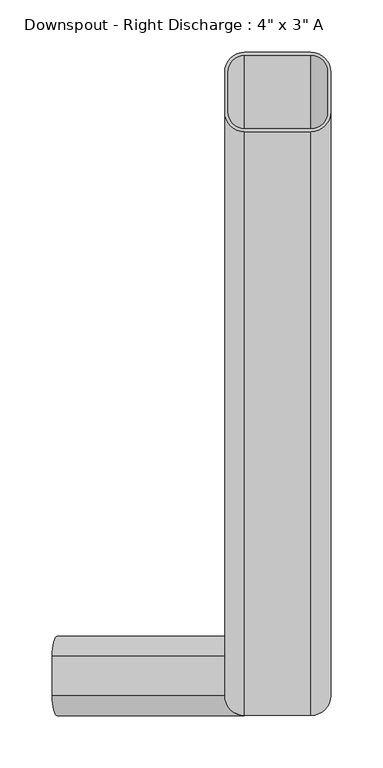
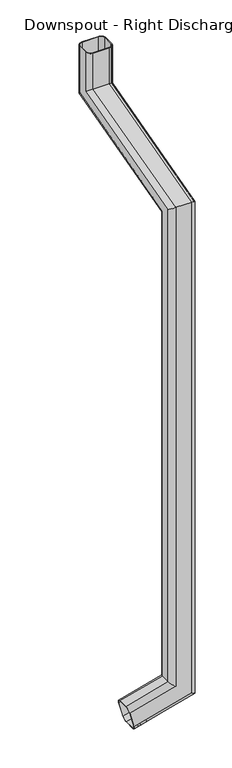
"""IFC4 building model written with IfcOpenShell, lengths in millimetres: proxy geometry."""

import ifcopenshell
import ifcopenshell.guid

model = None  # the IFC model being written
_history = None  # IfcOwnerHistory: only IFC2X3 demands one
_inside = {}  # id of a spatial element -> (the spatial element, [elements in it])
_under = {}  # id of a project, library or spatial element -> (it, [spatial elements below it])
_declared = {}  # id of a project -> (the project, [libraries it declares])
_typed = {}  # id of a type object -> (the type object, [elements of that type])
_made_of = {}  # id of a material, layer set ... -> (it, [elements and type objects made of it])


def new_model(schema):
    """Start an empty IFC model of exactly this schema.

    Asked for "IFC4X3", IfcOpenShell would pick the latest addendum, in which some entities
    have other attributes; the version numbers below select the first issue.
    IFC2X3 requires an IfcOwnerHistory on every rooted entity: one is made here for all.
    """
    global model, _history
    if schema == "IFC4X3":
        model = ifcopenshell.file(schema_version=(4, 3, 0, 0))
    else:
        model = ifcopenshell.file(schema=schema)
    _inside.clear()
    _under.clear()
    _declared.clear()
    _typed.clear()
    _made_of.clear()
    _history = None
    if model.schema == "IFC2X3":
        org = make("IfcOrganization", Name="unknown")
        user = make(
            "IfcPersonAndOrganization",
            ThePerson=make("IfcPerson", FamilyName="unknown"),
            TheOrganization=org,
        )
        app = make(
            "IfcApplication",
            ApplicationDeveloper=org,
            Version="unknown",
            ApplicationFullName="unknown",
            ApplicationIdentifier="unknown",
        )
        _history = make(
            "IfcOwnerHistory",
            OwningUser=user,
            OwningApplication=app,
            ChangeAction="ADDED",
            CreationDate=0,
        )
    return model


def make(cls, **values):
    """One entity of the class cls with the attributes given. An attribute that is None is left unset."""
    return model.create_entity(
        cls, **{name: value for name, value in values.items() if value is not None}
    )


def rooted(cls, **values):
    """An entity with a GlobalId (a new one), such as an element, a storey or a relation."""
    return make(cls, GlobalId=ifcopenshell.guid.new(), OwnerHistory=_history, **values)


def si_unit(unit_type, name, prefix=None):
    """IfcSIUnit, for example si_unit("LENGTHUNIT", "METRE", prefix="MILLI")."""
    return make("IfcSIUnit", UnitType=unit_type, Prefix=prefix, Name=name)


def assignment(units):
    """IfcUnitAssignment: the units of a project."""
    return None if units is None else make("IfcUnitAssignment", Units=units)


def point(xyz):
    """IfcCartesianPoint."""
    return None if xyz is None else make("IfcCartesianPoint", Coordinates=xyz)


def direction(xyz):
    """IfcDirection."""
    return None if xyz is None else make("IfcDirection", DirectionRatios=xyz)


def frame(location, z_axis=None, x_axis=None):
    """IfcAxis2Placement3D, a coordinate frame: its origin and axes. An axis left out is left unset."""
    return make(
        "IfcAxis2Placement3D",
        Location=point(location),
        Axis=direction(z_axis),
        RefDirection=direction(x_axis),
    )


def origin():
    """The frame at (0, 0, 0) with its axes left unset."""
    return frame((0.0, 0.0, 0.0))


def place(relative_to, where):
    """IfcLocalPlacement: puts the frame where relative to a parent placement (None: the world)."""
    return make(
        "IfcLocalPlacement", PlacementRelTo=relative_to, RelativePlacement=where
    )


def context(
    kind, dimensions, precision=None, world=None, true_north=None, identifier=None
):
    """IfcGeometricRepresentationContext, for example the 3D "Model" context."""
    return make(
        "IfcGeometricRepresentationContext",
        ContextIdentifier=identifier,
        ContextType=kind,
        CoordinateSpaceDimension=dimensions,
        Precision=precision,
        WorldCoordinateSystem=world,
        TrueNorth=true_north,
    )


def project(units=None, contexts=None):
    """IfcProject with its units and contexts."""
    return rooted(
        "IfcProject",
        Name="project",
        RepresentationContexts=contexts,
        UnitsInContext=assignment(units),
    )


def spatial(cls, under=None, at=None, **own):
    """A site, building, storey or space (cls), placed at a placement, below another one or the project."""
    s = rooted(cls, ObjectPlacement=at, **own)
    if under is not None:
        _under.setdefault(under.id(), (under, []))[1].append(s)
    return s


def polyline(points):
    """IfcPolyline through the points."""
    return make("IfcPolyline", Points=[point(p) for p in points])


def circle_curve(where, radius):
    """IfcCircle in the frame where."""
    return make("IfcCircle", Position=where, Radius=radius)


def ellipse_curve(where, semi_axis1, semi_axis2):
    """IfcEllipse in the frame where."""
    return make(
        "IfcEllipse", Position=where, SemiAxis1=semi_axis1, SemiAxis2=semi_axis2
    )


def shape(context_of_items, identifier, shape_type, items):
    """IfcShapeRepresentation: the items that make up one representation, for example the "Body"."""
    return make(
        "IfcShapeRepresentation",
        ContextOfItems=context_of_items,
        RepresentationIdentifier=identifier,
        RepresentationType=shape_type,
        Items=items,
    )


def source(mapping_origin, context_of_items, identifier, shape_type, items):
    """IfcRepresentationMap: a shape defined once, which mapped items show again and again."""
    return make(
        "IfcRepresentationMap",
        MappingOrigin=mapping_origin,
        MappedRepresentation=shape(context_of_items, identifier, shape_type, items),
    )


def transform(
    local_origin,
    x_axis=None,
    y_axis=None,
    z_axis=None,
    scale=None,
    scale2=None,
    scale3=None,
    uniform=True,
):
    """IfcCartesianTransformationOperator3D, or its non-uniform kind. x_axis, y_axis, z_axis: its Axis1, 2, 3."""
    if uniform:
        return make(
            "IfcCartesianTransformationOperator3D",
            Axis1=direction(x_axis),
            Axis2=direction(y_axis),
            LocalOrigin=point(local_origin),
            Scale=scale,
            Axis3=direction(z_axis),
        )
    return make(
        "IfcCartesianTransformationOperator3DnonUniform",
        Axis1=direction(x_axis),
        Axis2=direction(y_axis),
        LocalOrigin=point(local_origin),
        Scale=scale,
        Axis3=direction(z_axis),
        Scale2=scale2,
        Scale3=scale3,
    )


def mapped(mapping_source, mapping_target):
    """IfcMappedItem: shows the shape of a source again, moved by a transform."""
    return make(
        "IfcMappedItem", MappingSource=mapping_source, MappingTarget=mapping_target
    )


def made_of(thing, what):
    """Note that an element or type object is made of a material, layer set ...; save() writes the relation."""
    if what is not None:
        _made_of.setdefault(what.id(), (what, []))[1].append(thing)
    return thing


def element(
    cls,
    number,
    at=None,
    inside=None,
    cuts=None,
    type_object=None,
    material=None,
    context=None,
    identifier="Body",
    shape_type=None,
    held_by="IfcProductDefinitionShape",
    body=None,
    shapes=None,
    **own,
):
    """One element of the class cls, such as IfcWall. Its Tag is "e" and its number.

    at: its placement. inside: the storey or other place that contains it. cuts: it is an
    opening in that element (IfcRelVoidsElement). A single representation is given by context,
    identifier, shape_type and body (its items); several are given by shapes. held_by: the class
    of the entity that holds the representations. save() writes the other relations.
    """
    e = rooted(cls, Tag="e%d" % number, ObjectPlacement=at, **own)
    if body is not None:
        shapes = [shape(context, identifier, shape_type, body)]
    if shapes is not None:
        e.Representation = make(held_by, Representations=shapes)
    if inside is not None:
        _inside.setdefault(inside.id(), (inside, []))[1].append(e)
    if cuts is not None:
        rooted(
            "IfcRelVoidsElement", RelatingBuildingElement=cuts, RelatedOpeningElement=e
        )
    if type_object is not None:
        _typed.setdefault(type_object.id(), (type_object, []))[1].append(e)
    return made_of(e, material)


def aggregate(whole, parts):
    """IfcRelAggregates: a whole, such as a stair, and the parts it consists of."""
    return rooted("IfcRelAggregates", RelatingObject=whole, RelatedObjects=parts)


def save(model, path):
    """Write the relations noted so far, then the file.

    IfcRelAggregates (storeys below a building ...), IfcRelContainedInSpatialStructure (elements
    in a storey), IfcRelDefinesByType, IfcRelAssociatesMaterial and IfcRelDeclares: one each for
    every whole, place, type object, material and project.
    """
    for whole, parts in _under.values():
        aggregate(whole, parts)
    for where, things in _inside.values():
        rooted(
            "IfcRelContainedInSpatialStructure",
            RelatedElements=things,
            RelatingStructure=where,
        )
    for kind, things in _typed.values():
        rooted("IfcRelDefinesByType", RelatedObjects=things, RelatingType=kind)
    for what, things in _made_of.values():
        rooted("IfcRelAssociatesMaterial", RelatedObjects=things, RelatingMaterial=what)
    for by, libraries in _declared.values():
        rooted("IfcRelDeclares", RelatingContext=by, RelatedDefinitions=libraries)
    model.write(path)


def plane_surface(at):
    """IfcPlane: the flat surface through the origin of the frame at, square to its z axis."""
    return make("IfcPlane", Position=at)


def cylinder_surface(at, radius):
    """IfcCylindricalSurface: all points at the distance radius from the z axis of the frame at."""
    return make("IfcCylindricalSurface", Position=at, Radius=radius)


def revolved_surface(curve, axis_point, axis_direction):
    """IfcSurfaceOfRevolution: the curve turned about the line through axis_point along axis_direction."""
    return make(
        "IfcSurfaceOfRevolution",
        SweptCurve=make("IfcArbitraryOpenProfileDef", ProfileType="CURVE", Curve=curve),
        AxisPosition=make("IfcAxis1Placement", Location=point(axis_point), Axis=direction(axis_direction)),
    )


def advanced_brep(points, edges, surfaces, faces):
    """IfcAdvancedBrep: a solid bounded by faces that lie on surfaces and meet in shared edges.

    An edge is (start, end): straight between two places in points (the first is 0);
    or (start, end, curve); or (start, end, curve, False) where it runs against its curve.
    A face is (place in surfaces, loops), or (place, loops, False) where it looks against
    its surface's normal. A loop lists edges by number (the first is 1), with a minus sign
    where the edge is run from its end to its start. The first loop is the outer one.
    """
    corners = [point(p) for p in points]
    vertices = [make("IfcVertexPoint", VertexGeometry=c) for c in corners]
    made = []
    for start, end, *more in edges:
        made.append(
            make(
                "IfcEdgeCurve",
                EdgeStart=vertices[start],
                EdgeEnd=vertices[end],
                EdgeGeometry=more[0] if more else make("IfcPolyline", Points=[corners[start], corners[end]]),
                SameSense=more[1] if len(more) > 1 else True,
            )
        )
    hull = []
    for where, loops, *sense in faces:
        bounds = []
        for j, loop in enumerate(loops):
            ring = [make("IfcOrientedEdge", EdgeElement=made[abs(k) - 1], Orientation=k > 0) for k in loop]
            bounds.append(
                make(
                    "IfcFaceOuterBound" if j == 0 else "IfcFaceBound",
                    Bound=make("IfcEdgeLoop", EdgeList=ring),
                    Orientation=True,
                )
            )
        hull.append(make("IfcAdvancedFace", Bounds=bounds, FaceSurface=surfaces[where], SameSense=sense[0] if sense else True))
    return make("IfcAdvancedBrep", Outer=make("IfcClosedShell", CfsFaces=hull))


def proxy_e2340bb6(model_context):
    return source(origin(), model_context, "Body", "AdvancedBrep", [
        advanced_brep(
        [(-190.0519925, 184.15, 103.330968), (-194.9824953, 165.1, 121.731855), (-211.4175047, 165.1, 183.068145), (-216.3480075, 184.15, 201.469032), (-216.3480075, 222.25, 201.469032), (-211.4175047, 241.3, 183.068145), (-194.9824953, 241.3, 121.731855), (-190.0519925, 222.25, 103.330968), (-190.873743, 184.15, 106.3977825), (-190.873743, 222.25, 106.3977825), (-194.9824953, 238.125, 121.731855), (-211.4175047, 238.125, 183.068145), (-215.526257, 222.25, 198.4022175), (-215.526257, 184.15, 198.4022175), (-211.4175047, 168.275, 183.068145), (-194.9824953, 168.275, 121.731855), (31.75, 165.1, 182.484644), (50.8, 184.15, 167.8670649), (50.8, 184.15, 2193.2213622), (31.75, 165.1, 2207.8389413), (-50.8, 184.15, 245.8274869), (-31.75, 165.1, 231.2099078), (-31.75, 165.1, 2207.8389413), (-50.8, 184.15, 2193.2213622), (-50.8, 222.25, 245.8274869), (-50.8, 742.95, 2342.9513709), (-50.8, 742.95, 2506.1337918), (-50.8, 781.05, 2506.1337918), (-50.8, 781.05, 2313.7162127), (-50.8, 222.25, 2163.9862039), (-31.75, 241.3, 231.2099078), (-31.75, 241.3, 2149.3686248), (50.8, 222.25, 167.8670649), (31.75, 241.3, 182.484644), (31.75, 241.3, 2149.3686248), (50.8, 222.25, 2163.9862039), (50.8, 781.05, 2313.7162127), (50.8, 781.05, 2506.1337918), (50.8, 742.95, 2506.1337918), (50.8, 742.95, 2342.9513709), (47.625, 222.25, 170.3033281), (47.625, 184.15, 170.3033281), (47.625, 184.15, 2193.2213622), (47.625, 742.95, 2342.9513709), (47.625, 742.95, 2506.1337918), (47.625, 781.05, 2506.1337918), (47.625, 781.05, 2313.7162127), (47.625, 222.25, 2163.9862039), (31.75, 238.125, 182.484644), (31.75, 238.125, 2151.804888), (-47.625, 222.25, 243.3912237), (-31.75, 238.125, 231.2099078), (-31.75, 238.125, 2151.804888), (-47.625, 222.25, 2163.9862039), (-47.625, 184.15, 243.3912237), (-47.625, 781.05, 2313.7162127), (-47.625, 781.05, 2506.1337918), (-47.625, 742.95, 2506.1337918), (-47.625, 742.95, 2342.9513709), (-47.625, 184.15, 2193.2213622), (-31.75, 168.275, 231.2099078), (-31.75, 168.275, 2205.4026781), (31.75, 168.275, 182.484644), (31.75, 168.275, 2205.4026781), (31.75, 723.9, 2357.56895), (-31.75, 723.9, 2357.56895), (-31.75, 800.1, 2299.0986335), (31.75, 800.1, 2299.0986335), (31.75, 796.925, 2301.5348967), (-31.75, 796.925, 2301.5348967), (-31.75, 727.075, 2355.1326868), (31.75, 727.075, 2355.1326868), (31.75, 800.1, 2506.1337918), (-31.75, 800.1, 2506.1337918), (-31.75, 723.9, 2506.1337918), (31.75, 723.9, 2506.1337918), (31.75, 727.075, 2506.1337918), (-31.75, 727.075, 2506.1337918), (-31.75, 796.925, 2506.1337918), (31.75, 796.925, 2506.1337918)],
        [
            (0, 1, circle_curve(frame((-194.9824953, 184.15, 121.731855), z_axis=(-0.9659258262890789, 0.0, -0.25881904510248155), x_axis=(0.0, -1.0, 0.0)), 19.05)),
            (1, 2),
            (2, 3, circle_curve(frame((-211.4175047, 184.15, 183.068145), z_axis=(-0.9659258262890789, 0.0, -0.25881904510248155), x_axis=(0.0, -1.0, 0.0)), 19.05)),
            (3, 4),
            (4, 5, circle_curve(frame((-211.4175047, 222.25, 183.068145), z_axis=(-0.9659258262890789, 0.0, -0.25881904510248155), x_axis=(0.0, -1.0, 0.0)), 19.05)),
            (5, 6),
            (6, 7, circle_curve(frame((-194.9824953, 222.25, 121.731855), z_axis=(-0.9659258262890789, 0.0, -0.25881904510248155), x_axis=(0.0, -1.0, 0.0)), 19.05)),
            (7, 0),
            (8, 9),
            (9, 10, circle_curve(frame((-194.9824953, 222.25, 121.731855), z_axis=(0.9659258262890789, 0.0, 0.25881904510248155), x_axis=(0.0, -1.0, 0.0)), 15.875)),
            (10, 11),
            (11, 12, circle_curve(frame((-211.4175047, 222.25, 183.068145), z_axis=(0.9659258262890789, 0.0, 0.25881904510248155), x_axis=(0.0, -1.0, 0.0)), 15.875)),
            (12, 13),
            (13, 14, circle_curve(frame((-211.4175047, 184.15, 183.068145), z_axis=(0.9659258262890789, 0.0, 0.25881904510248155), x_axis=(0.0, -1.0, 0.0)), 15.875)),
            (14, 15),
            (15, 8, circle_curve(frame((-194.9824953, 184.15, 121.731855), z_axis=(0.9659258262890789, 0.0, 0.25881904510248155), x_axis=(0.0, -1.0, 0.0)), 15.875)),
            (16, 17, ellipse_curve(frame((31.75, 184.15, 182.484644), z_axis=(0.6087614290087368, 0.0, 0.7933533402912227), x_axis=(0.7933533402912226, 0.0, -0.608761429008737)), 24.0119995, 19.05)),
            (17, 18),
            (18, 19, ellipse_curve(frame((31.75, 184.15, 2193.2213622), z_axis=(0.0, -0.6087614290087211, -0.7933533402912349), x_axis=(0.0, 0.793353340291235, -0.6087614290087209)), 24.0119995, 19.05)),
            (19, 16),
            (20, 21, ellipse_curve(frame((-31.75, 184.15, 231.2099078), z_axis=(0.6087614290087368, 0.0, 0.7933533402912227), x_axis=(0.7933533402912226, 0.0, -0.608761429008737)), 24.0119995, 19.05)),
            (21, 22),
            (22, 23, ellipse_curve(frame((-31.75, 184.15, 2193.2213622), z_axis=(0.0, -0.6087614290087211, -0.7933533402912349), x_axis=(0.0, 0.793353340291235, -0.6087614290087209)), 24.0119995, 19.05)),
            (23, 20),
            (24, 20),
            (23, 25),
            (25, 26),
            (26, 27),
            (27, 28),
            (28, 29),
            (29, 24),
            (30, 24, ellipse_curve(frame((-31.75, 222.25, 231.2099078), z_axis=(0.6087614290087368, 0.0, 0.7933533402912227), x_axis=(0.7933533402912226, 0.0, -0.608761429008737)), 24.0119995, 19.05)),
            (29, 31, ellipse_curve(frame((-31.75, 222.25, 2163.9862039), z_axis=(0.0, -0.6087614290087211, -0.7933533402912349), x_axis=(0.0, 0.793353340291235, -0.6087614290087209)), 24.0119995, 19.05)),
            (31, 30),
            (32, 33, ellipse_curve(frame((31.75, 222.25, 182.484644), z_axis=(0.6087614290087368, 0.0, 0.7933533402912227), x_axis=(0.7933533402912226, 0.0, -0.608761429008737)), 24.0119995, 19.05)),
            (33, 34),
            (34, 35, ellipse_curve(frame((31.75, 222.25, 2163.9862039), z_axis=(0.0, -0.6087614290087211, -0.7933533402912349), x_axis=(0.0, 0.793353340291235, -0.6087614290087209)), 24.0119995, 19.05)),
            (35, 32),
            (17, 32),
            (35, 36),
            (36, 37),
            (37, 38),
            (38, 39),
            (39, 18),
            (40, 41),
            (41, 42),
            (42, 43),
            (43, 44),
            (44, 45),
            (45, 46),
            (46, 47),
            (47, 40),
            (48, 40, ellipse_curve(frame((31.75, 222.25, 182.484644), z_axis=(-0.6087614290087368, 0.0, -0.7933533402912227), x_axis=(-0.7933533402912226, 0.0, 0.608761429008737)), 20.0099996, 15.875)),
            (47, 49, ellipse_curve(frame((31.75, 222.25, 2163.9862039), z_axis=(0.0, 0.6087614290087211, 0.7933533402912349), x_axis=(0.0, -0.793353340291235, 0.6087614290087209)), 20.0099996, 15.875)),
            (49, 48),
            (50, 51, ellipse_curve(frame((-31.75, 222.25, 231.2099078), z_axis=(-0.6087614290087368, 0.0, -0.7933533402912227), x_axis=(-0.7933533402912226, 0.0, 0.608761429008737)), 20.0099996, 15.875)),
            (51, 52),
            (52, 53, ellipse_curve(frame((-31.75, 222.25, 2163.9862039), z_axis=(0.0, 0.6087614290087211, 0.7933533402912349), x_axis=(0.0, -0.793353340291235, 0.6087614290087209)), 20.0099996, 15.875)),
            (53, 50),
            (54, 50),
            (53, 55),
            (55, 56),
            (56, 57),
            (57, 58),
            (58, 59),
            (59, 54),
            (60, 54, ellipse_curve(frame((-31.75, 184.15, 231.2099078), z_axis=(-0.6087614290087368, 0.0, -0.7933533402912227), x_axis=(-0.7933533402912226, 0.0, 0.608761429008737)), 20.0099996, 15.875)),
            (59, 61, ellipse_curve(frame((-31.75, 184.15, 2193.2213622), z_axis=(0.0, 0.6087614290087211, 0.7933533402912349), x_axis=(0.0, -0.793353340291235, 0.6087614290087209)), 20.0099996, 15.875)),
            (61, 60),
            (41, 62, ellipse_curve(frame((31.75, 184.15, 182.484644), z_axis=(-0.6087614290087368, 0.0, -0.7933533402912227), x_axis=(-0.7933533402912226, 0.0, 0.608761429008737)), 20.0099996, 15.875)),
            (62, 63),
            (63, 42, ellipse_curve(frame((31.75, 184.15, 2193.2213622), z_axis=(0.0, 0.6087614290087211, 0.7933533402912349), x_axis=(0.0, -0.793353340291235, 0.6087614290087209)), 20.0099996, 15.875)),
            (39, 64, ellipse_curve(frame((31.75, 742.95, 2342.9513709), z_axis=(0.0, -0.6087614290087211, -0.7933533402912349), x_axis=(0.0, -0.7933533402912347, 0.6087614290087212)), 24.0119995, 19.05)),
            (64, 19),
            (22, 19),
            (64, 65),
            (65, 22),
            (65, 25, ellipse_curve(frame((-31.75, 742.95, 2342.9513709), z_axis=(0.0, -0.6087614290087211, -0.7933533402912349), x_axis=(0.0, -0.7933533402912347, 0.6087614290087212)), 24.0119995, 19.05)),
            (28, 66, ellipse_curve(frame((-31.75, 781.05, 2313.7162127), z_axis=(0.0, -0.6087614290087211, -0.7933533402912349), x_axis=(0.0, -0.7933533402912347, 0.6087614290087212)), 24.0119995, 19.05)),
            (66, 31),
            (34, 31),
            (66, 67),
            (67, 34),
            (67, 36, ellipse_curve(frame((31.75, 781.05, 2313.7162127), z_axis=(0.0, -0.6087614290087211, -0.7933533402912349), x_axis=(0.0, -0.7933533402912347, 0.6087614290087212)), 24.0119995, 19.05)),
            (46, 68, ellipse_curve(frame((31.75, 781.05, 2313.7162127), z_axis=(0.0, 0.6087614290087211, 0.7933533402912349), x_axis=(0.0, 0.7933533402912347, -0.6087614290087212)), 20.0099996, 15.875)),
            (68, 49),
            (52, 49),
            (68, 69),
            (69, 52),
            (69, 55, ellipse_curve(frame((-31.75, 781.05, 2313.7162127), z_axis=(0.0, 0.6087614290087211, 0.7933533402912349), x_axis=(0.0, 0.7933533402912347, -0.6087614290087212)), 20.0099996, 15.875)),
            (58, 70, ellipse_curve(frame((-31.75, 742.95, 2342.9513709), z_axis=(0.0, 0.6087614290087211, 0.7933533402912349), x_axis=(0.0, 0.7933533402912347, -0.6087614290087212)), 20.0099996, 15.875)),
            (70, 61),
            (63, 61),
            (70, 71),
            (71, 63),
            (71, 43, ellipse_curve(frame((31.75, 742.95, 2342.9513709), z_axis=(0.0, 0.6087614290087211, 0.7933533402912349), x_axis=(0.0, 0.7933533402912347, -0.6087614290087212)), 20.0099996, 15.875)),
            (37, 72, circle_curve(frame((31.75, 781.05, 2506.1337918), z_axis=(0.0, 0.0, 1.0), x_axis=(0.0, -1.0, 0.0)), 19.05)),
            (72, 73),
            (73, 27, circle_curve(frame((-31.75, 781.05, 2506.1337918), z_axis=(0.0, 0.0, 1.0), x_axis=(0.0, -1.0, 0.0)), 19.05)),
            (26, 74, circle_curve(frame((-31.75, 742.95, 2506.1337918), z_axis=(0.0, 0.0, 1.0), x_axis=(0.0, -1.0, 0.0)), 19.05)),
            (74, 75),
            (75, 38, circle_curve(frame((31.75, 742.95, 2506.1337918), z_axis=(0.0, 0.0, 1.0), x_axis=(0.0, -1.0, 0.0)), 19.05)),
            (44, 76, circle_curve(frame((31.75, 742.95, 2506.1337918), z_axis=(0.0, 0.0, -1.0), x_axis=(0.0, -1.0, 0.0)), 15.875)),
            (76, 77),
            (77, 57, circle_curve(frame((-31.75, 742.95, 2506.1337918), z_axis=(0.0, 0.0, -1.0), x_axis=(0.0, -1.0, 0.0)), 15.875)),
            (56, 78, circle_curve(frame((-31.75, 781.05, 2506.1337918), z_axis=(0.0, 0.0, -1.0), x_axis=(0.0, -1.0, 0.0)), 15.875)),
            (78, 79),
            (79, 45, circle_curve(frame((31.75, 781.05, 2506.1337918), z_axis=(0.0, 0.0, -1.0), x_axis=(0.0, -1.0, 0.0)), 15.875)),
            (75, 64),
            (74, 65),
            (73, 66),
            (72, 67),
            (79, 68),
            (78, 69),
            (77, 70),
            (76, 71),
            (0, 17),
            (16, 1),
            (21, 2),
            (20, 3),
            (24, 4),
            (30, 5),
            (33, 6),
            (32, 7),
            (8, 41),
            (40, 9),
            (48, 10),
            (51, 11),
            (50, 12),
            (54, 13),
            (60, 14),
            (62, 15),
        ],
        [
            plane_surface(frame((-203.2, 147.5002825, 152.4), z_axis=(-0.9659258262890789, 0.0, -0.25881904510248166), x_axis=(0.25881904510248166, 0.0, -0.9659258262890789))),
            cylinder_surface(frame((31.75, 184.15, 206.8472759), z_axis=(0.0, 0.0, -1.0), x_axis=(0.0, -1.0, 0.0)), 19.05),
            cylinder_surface(frame((-31.75, 184.15, 206.8472759), z_axis=(0.0, 0.0, -1.0), x_axis=(0.0, -1.0, 0.0)), 19.05),
            plane_surface(frame((-50.8, 184.15, 245.8274869), z_axis=(-1.0, 0.0, 0.0), x_axis=(0.0, 0.0, 1.0))),
            cylinder_surface(frame((-31.75, 222.25, 206.8472759), z_axis=(0.0, 0.0, -1.0), x_axis=(0.0, -1.0, 0.0)), 19.05),
            cylinder_surface(frame((31.75, 222.25, 206.8472759), z_axis=(0.0, 0.0, -1.0), x_axis=(0.0, -1.0, 0.0)), 19.05),
            plane_surface(frame((50.8, 222.25, 167.8670649), z_axis=(1.0, 0.0, 0.0), x_axis=(0.0, 0.0, 1.0))),
            plane_surface(frame((47.625, 184.15, 170.3033281), z_axis=(-1.0, 0.0, 0.0), x_axis=(0.0, 0.0, 1.0))),
            revolved_surface(polyline([(31.75, 206.375, 2176.1675198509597), (31.75, 206.375, 170.30332804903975)]), (31.75, 222.25, 206.8472759), (0.0, 0.0, 1.0)),
            revolved_surface(polyline([(-31.75, 206.375, 2176.1675198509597), (-31.75, 206.375, 219.02859184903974)]), (-31.75, 222.25, 206.8472759), (0.0, 0.0, 1.0)),
            plane_surface(frame((-47.625, 222.25, 243.3912237), z_axis=(1.0, 0.0, 0.0), x_axis=(0.0, 0.0, 1.0))),
            revolved_surface(polyline([(-31.75, 168.275, 2205.4026781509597), (-31.75, 168.275, 219.02859184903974)]), (-31.75, 184.15, 206.8472759), (0.0, 0.0, 1.0)),
            revolved_surface(polyline([(31.75, 168.275, 2205.4026781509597), (31.75, 168.275, 170.30332804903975)]), (31.75, 184.15, 206.8472759), (0.0, 0.0, 1.0)),
            cylinder_surface(frame((31.75, 198.2694972, 2197.00467), z_axis=(0.0, -0.9659258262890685, -0.25881904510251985), x_axis=(0.0, -0.25881904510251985, 0.9659258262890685)), 19.05),
            plane_surface(frame((31.75, 165.1, 2207.8389413), z_axis=(0.0, -0.2588190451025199, 0.9659258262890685), x_axis=(0.0, 0.9659258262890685, 0.2588190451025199))),
            cylinder_surface(frame((-31.75, 198.2694972, 2197.00467), z_axis=(0.0, -0.9659258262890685, -0.25881904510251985), x_axis=(0.0, -0.25881904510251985, 0.9659258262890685)), 19.05),
            cylinder_surface(frame((-31.75, 208.1305028, 2160.2028961), z_axis=(0.0, -0.9659258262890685, -0.25881904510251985), x_axis=(0.0, -0.25881904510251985, 0.9659258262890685)), 19.05),
            plane_surface(frame((-31.75, 241.3, 2149.3686248), z_axis=(0.0, 0.2588190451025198, -0.9659258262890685), x_axis=(0.0, 0.9659258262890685, 0.2588190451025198))),
            cylinder_surface(frame((31.75, 208.1305028, 2160.2028961), z_axis=(0.0, -0.9659258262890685, -0.25881904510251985), x_axis=(0.0, -0.25881904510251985, 0.9659258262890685)), 19.05),
            revolved_surface(polyline([(31.75, 788.7074953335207, 2332.2030417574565), (31.75, 206.3749999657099, 2176.1675198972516)]), (31.75, 208.1305028, 2160.2028961), (0.0, 0.9659258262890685, 0.25881904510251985)),
            plane_surface(frame((31.75, 238.125, 2151.804888), z_axis=(0.0, -0.2588190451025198, 0.9659258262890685), x_axis=(0.0, 0.9659258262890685, 0.2588190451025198))),
            revolved_surface(polyline([(-31.75, 788.7074953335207, 2332.2030417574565), (-31.75, 206.3749999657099, 2176.1675198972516)]), (-31.75, 208.1305028, 2160.2028961), (0.0, 0.9659258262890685, 0.25881904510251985)),
            revolved_surface(polyline([(-31.75, 750.6074953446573, 2361.438199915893), (-31.75, 168.2750000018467, 2205.402678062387)]), (-31.75, 198.2694972, 2197.00467), (0.0, 0.9659258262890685, 0.25881904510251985)),
            plane_surface(frame((-31.75, 168.275, 2205.4026781), z_axis=(0.0, 0.2588190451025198, -0.9659258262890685), x_axis=(0.0, 0.9659258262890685, 0.2588190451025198))),
            revolved_surface(polyline([(31.75, 750.6074953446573, 2361.438199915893), (31.75, 168.2750000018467, 2205.402678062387)]), (31.75, 198.2694972, 2197.00467), (0.0, 0.9659258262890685, 0.25881904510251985)),
            plane_surface(frame((0.0, 706.3002825, 2506.1337918), z_axis=(0.0, 0.0, 1.0), x_axis=(1.0, 0.0, 0.0))),
            cylinder_surface(frame((31.75, 742.95, 2328.3337918), z_axis=(0.0, 0.0, -1.0), x_axis=(0.0, -1.0, 0.0)), 19.05),
            plane_surface(frame((31.75, 723.9, 2357.56895), z_axis=(0.0, -1.0, 0.0), x_axis=(0.0, 0.0, 1.0))),
            cylinder_surface(frame((-31.75, 742.95, 2328.3337918), z_axis=(0.0, 0.0, -1.0), x_axis=(0.0, -1.0, 0.0)), 19.05),
            cylinder_surface(frame((-31.75, 781.05, 2328.3337918), z_axis=(0.0, 0.0, -1.0), x_axis=(0.0, -1.0, 0.0)), 19.05),
            plane_surface(frame((-31.75, 800.1, 2299.0986335), z_axis=(0.0, 1.0, 0.0), x_axis=(0.0, 0.0, 1.0))),
            cylinder_surface(frame((31.75, 781.05, 2328.3337918), z_axis=(0.0, 0.0, -1.0), x_axis=(0.0, -1.0, 0.0)), 19.05),
            revolved_surface(polyline([(31.75, 765.175, 2506.1337918), (31.75, 765.175, 2301.5348967)]), (31.75, 781.05, 2328.3337918), (0.0, 0.0, 1.0)),
            plane_surface(frame((31.75, 796.925, 2301.5348967), z_axis=(0.0, -1.0, 0.0), x_axis=(0.0, 0.0, 1.0))),
            revolved_surface(polyline([(-31.75, 765.175, 2506.1337918), (-31.75, 765.175, 2301.5348967)]), (-31.75, 781.05, 2328.3337918), (0.0, 0.0, 1.0)),
            revolved_surface(polyline([(-31.75, 727.075, 2506.1337918), (-31.75, 727.075, 2330.77005494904)]), (-31.75, 742.95, 2328.3337918), (0.0, 0.0, 1.0)),
            plane_surface(frame((-31.75, 727.075, 2355.1326868), z_axis=(0.0, 1.0, 0.0), x_axis=(0.0, 0.0, 1.0))),
            revolved_surface(polyline([(31.75, 727.075, 2506.1337918), (31.75, 727.075, 2330.77005494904)]), (31.75, 742.95, 2328.3337918), (0.0, 0.0, 1.0)),
            cylinder_surface(frame((-194.9824953, 184.15, 121.731855), z_axis=(-0.9659258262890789, 0.0, -0.25881904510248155), x_axis=(0.0, -1.0, 0.0)), 19.05),
            plane_surface(frame((-194.9824953, 165.1, 121.731855), z_axis=(0.0, -1.0, 0.0), x_axis=(0.9659258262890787, 0.0, 0.25881904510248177))),
            cylinder_surface(frame((-211.4175047, 184.15, 183.068145), z_axis=(-0.9659258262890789, 0.0, -0.25881904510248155), x_axis=(0.0, -1.0, 0.0)), 19.05),
            plane_surface(frame((-216.3480075, 184.15, 201.469032), z_axis=(-0.25881904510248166, 0.0, 0.9659258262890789), x_axis=(0.9659258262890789, 0.0, 0.25881904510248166))),
            cylinder_surface(frame((-211.4175047, 222.25, 183.068145), z_axis=(-0.9659258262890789, 0.0, -0.25881904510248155), x_axis=(0.0, -1.0, 0.0)), 19.05),
            plane_surface(frame((-211.4175047, 241.3, 183.068145), z_axis=(0.0, 1.0000000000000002, 0.0), x_axis=(0.9659258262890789, 0.0, 0.25881904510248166))),
            cylinder_surface(frame((-194.9824953, 222.25, 121.731855), z_axis=(-0.9659258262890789, 0.0, -0.25881904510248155), x_axis=(0.0, -1.0, 0.0)), 19.05),
            plane_surface(frame((-190.0519925, 222.25, 103.330968), z_axis=(0.25881904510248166, 0.0, -0.9659258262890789), x_axis=(0.9659258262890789, 0.0, 0.25881904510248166))),
            plane_surface(frame((-190.873743, 184.15, 106.3977825), z_axis=(-0.25881904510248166, 0.0, 0.9659258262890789), x_axis=(0.9659258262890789, 0.0, 0.25881904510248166))),
            revolved_surface(polyline([(43.51624767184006, 206.375, 185.63740057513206), (-194.9824953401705, 206.375, 121.73185498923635)]), (-194.9824953, 222.25, 121.731855), (0.9659258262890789, 0.0, 0.25881904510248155)),
            plane_surface(frame((-194.9824953, 238.125, 121.731855), z_axis=(0.0, -1.0000000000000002, 0.0), x_axis=(0.9659258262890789, 0.0, 0.25881904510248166))),
            revolved_surface(polyline([(-19.983752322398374, 206.375, 234.36266435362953), (-211.4175047, 206.375, 183.068145)]), (-211.4175047, 222.25, 183.068145), (0.9659258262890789, 0.0, 0.25881904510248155)),
            plane_surface(frame((-215.526257, 222.25, 198.4022175), z_axis=(0.2588190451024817, 0.0, -0.9659258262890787), x_axis=(0.9659258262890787, 0.0, 0.2588190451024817))),
            revolved_surface(polyline([(-19.983752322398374, 168.275, 234.36266435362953), (-211.4175047, 168.275, 183.068145)]), (-211.4175047, 184.15, 183.068145), (0.9659258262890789, 0.0, 0.25881904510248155)),
            plane_surface(frame((-211.4175047, 168.275, 183.068145), z_axis=(0.0, 1.0, 0.0), x_axis=(0.9659258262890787, 0.0, 0.25881904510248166))),
            revolved_surface(polyline([(43.51624767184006, 168.275, 185.63740057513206), (-194.9824953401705, 168.275, 121.73185498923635)]), (-194.9824953, 184.15, 121.731855), (0.9659258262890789, 0.0, 0.25881904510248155)),
        ],
        [
            (0, [[1, 2, 3, 4, 5, 6, 7, 8], [9, 10, 11, 12, 13, 14, 15, 16]]),
            (1, [[17, 18, 19, 20]]),
            (2, [[21, 22, 23, 24]]),
            (3, [[25, -24, 26, 27, 28, 29, 30, 31]]),
            (4, [[32, -31, 33, 34]]),
            (5, [[35, 36, 37, 38]]),
            (6, [[39, -38, 40, 41, 42, 43, 44, -18]]),
            (7, [[45, 46, 47, 48, 49, 50, 51, 52]]),
            (8, [[53, -52, 54, 55]]),
            (9, [[56, 57, 58, 59]]),
            (10, [[60, -59, 61, 62, 63, 64, 65, 66]]),
            (11, [[67, -66, 68, 69]]),
            (12, [[70, 71, 72, -46]]),
            (13, [[-19, -44, 73, 74]]),
            (14, [[75, -74, 76, 77]]),
            (15, [[-23, -77, 78, -26]]),
            (16, [[-33, -30, 79, 80]]),
            (17, [[81, -80, 82, 83]]),
            (18, [[-37, -83, 84, -40]]),
            (19, [[-54, -51, 85, 86]]),
            (20, [[87, -86, 88, 89]]),
            (21, [[-58, -89, 90, -61]]),
            (22, [[-68, -65, 91, 92]]),
            (23, [[93, -92, 94, 95]]),
            (24, [[-72, -95, 96, -47]]),
            (25, [[-42, 97, 98, 99, -28, 100, 101, 102], [103, 104, 105, -63, 106, 107, 108, -49]]),
            (26, [[-73, -43, -102, 109]]),
            (27, [[-76, -109, -101, 110]]),
            (28, [[-78, -110, -100, -27]]),
            (29, [[-79, -29, -99, 111]]),
            (30, [[-82, -111, -98, 112]]),
            (31, [[-84, -112, -97, -41]]),
            (32, [[-85, -50, -108, 113]]),
            (33, [[-88, -113, -107, 114]]),
            (34, [[-90, -114, -106, -62]]),
            (35, [[-91, -64, -105, 115]]),
            (36, [[-94, -115, -104, 116]]),
            (37, [[-96, -116, -103, -48]]),
            (38, [[-1, 117, -17, 118]]),
            (39, [[-2, -118, -20, -75, -22, 119]]),
            (40, [[-3, -119, -21, 120]]),
            (41, [[-4, -120, -25, 121]]),
            (42, [[-5, -121, -32, 122]]),
            (43, [[-6, -122, -34, -81, -36, 123]]),
            (44, [[-7, -123, -35, 124]]),
            (45, [[-8, -124, -39, -117]]),
            (46, [[-9, 125, -45, 126]]),
            (47, [[-10, -126, -53, 127]]),
            (48, [[-11, -127, -55, -87, -57, 128]]),
            (49, [[-12, -128, -56, 129]]),
            (50, [[-13, -129, -60, 130]]),
            (51, [[-14, -130, -67, 131]]),
            (52, [[-15, -131, -69, -93, -71, 132]]),
            (53, [[-16, -132, -70, -125]]),
        ],
    ),
    ])


if __name__ == "__main__":
    model = new_model("IFC4")
    model_context = context("Model", 3, world=origin())
    ifc_project = project(units=[si_unit("LENGTHUNIT", "METRE", prefix="MILLI")], contexts=[model_context])
    site = spatial("IfcSite", under=ifc_project)
    building = spatial("IfcBuilding", under=site)
    placement = place(None, origin())
    proxy_shape = proxy_e2340bb6(model_context)
    element("IfcBuildingElementProxy", 1, Name="Downspout - Right Discharge : 4\" x 3\" A", ObjectType="Downspout - Right Discharge : 4\" x 3\" A", at=placement, inside=building, context=model_context, shape_type="MappedRepresentation", body=[
        mapped(proxy_shape, transform((0.0, 0.0, 0.0), x_axis=(1.0, 0.0, 0.0), y_axis=(0.0, 1.0, 0.0), z_axis=(0.0, 0.0, 1.0))),
    ])
    save(model, "model.ifc")
